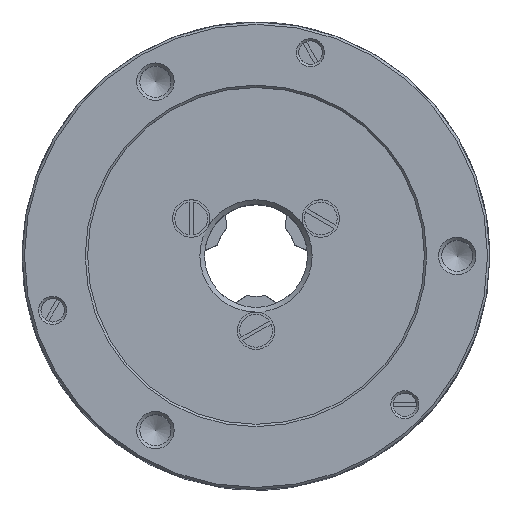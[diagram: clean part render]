
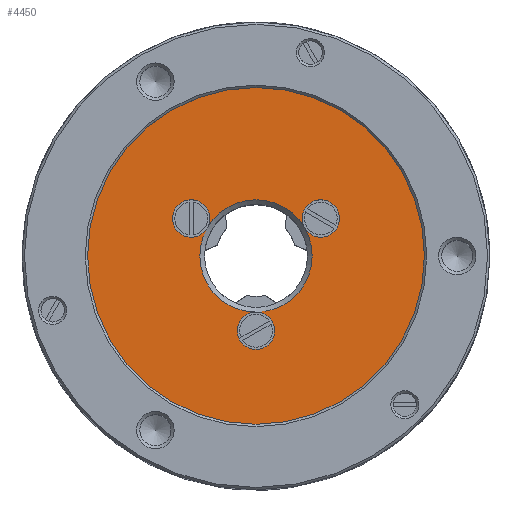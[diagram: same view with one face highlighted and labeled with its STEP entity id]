
A CAD part, top view. The second image highlights one B-rep face of the part: STEP entity #4450.
In plain terms, the highlighted planar face has unit normal (0, 0, 1).
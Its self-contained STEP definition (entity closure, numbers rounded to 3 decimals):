
#192=FACE_BOUND('',#691,.T.);
#214=PLANE('',#4831);
#418=FACE_OUTER_BOUND('',#690,.T.);
#690=EDGE_LOOP('',(#3148));
#691=EDGE_LOOP('',(#3149,#3150,#3151,#3152,#3153,#3154,#3155,#3156,#3157,
#3158));
#967=CIRCLE('',#4777,36.);
#994=CIRCLE('',#4813,4.);
#995=CIRCLE('',#4814,4.);
#1001=CIRCLE('',#4828,4.);
#1002=CIRCLE('',#4829,4.);
#1003=CIRCLE('',#4832,12.);
#1004=CIRCLE('',#4833,4.);
#1005=CIRCLE('',#4834,4.);
#1006=CIRCLE('',#4835,12.);
#1007=CIRCLE('',#4836,12.);
#1008=CIRCLE('',#4837,12.);
#1869=VERTEX_POINT('',#6672);
#1924=VERTEX_POINT('',#6927);
#1925=VERTEX_POINT('',#6928);
#1935=VERTEX_POINT('',#6962);
#1936=VERTEX_POINT('',#6963);
#1937=VERTEX_POINT('',#6969);
#1938=VERTEX_POINT('',#6970);
#1939=VERTEX_POINT('',#6972);
#2334=EDGE_CURVE('',#1869,#1869,#967,.T.);
#2396=EDGE_CURVE('',#1924,#1925,#994,.T.);
#2397=EDGE_CURVE('',#1925,#1924,#995,.T.);
#2412=EDGE_CURVE('',#1935,#1936,#1001,.T.);
#2413=EDGE_CURVE('',#1936,#1935,#1002,.T.);
#2415=EDGE_CURVE('',#1937,#1938,#1003,.T.);
#2416=EDGE_CURVE('',#1937,#1939,#1004,.T.);
#2417=EDGE_CURVE('',#1939,#1937,#1005,.T.);
#2418=EDGE_CURVE('',#1935,#1937,#1006,.T.);
#2419=EDGE_CURVE('',#1924,#1935,#1007,.T.);
#2420=EDGE_CURVE('',#1938,#1924,#1008,.T.);
#3148=ORIENTED_EDGE('',*,*,#2334,.F.);
#3149=ORIENTED_EDGE('',*,*,#2415,.F.);
#3150=ORIENTED_EDGE('',*,*,#2416,.T.);
#3151=ORIENTED_EDGE('',*,*,#2417,.T.);
#3152=ORIENTED_EDGE('',*,*,#2418,.F.);
#3153=ORIENTED_EDGE('',*,*,#2412,.T.);
#3154=ORIENTED_EDGE('',*,*,#2413,.T.);
#3155=ORIENTED_EDGE('',*,*,#2419,.F.);
#3156=ORIENTED_EDGE('',*,*,#2396,.T.);
#3157=ORIENTED_EDGE('',*,*,#2397,.T.);
#3158=ORIENTED_EDGE('',*,*,#2420,.F.);
#4450=ADVANCED_FACE('',(#418,#192),#214,.T.);
#4777=AXIS2_PLACEMENT_3D('',#6673,#5332,#5333);
#4813=AXIS2_PLACEMENT_3D('',#6929,#5433,#5434);
#4814=AXIS2_PLACEMENT_3D('',#6930,#5435,#5436);
#4828=AXIS2_PLACEMENT_3D('',#6964,#5472,#5473);
#4829=AXIS2_PLACEMENT_3D('',#6965,#5474,#5475);
#4831=AXIS2_PLACEMENT_3D('',#6968,#5479,#5480);
#4832=AXIS2_PLACEMENT_3D('',#6971,#5481,#5482);
#4833=AXIS2_PLACEMENT_3D('',#6973,#5483,#5484);
#4834=AXIS2_PLACEMENT_3D('',#6974,#5485,#5486);
#4835=AXIS2_PLACEMENT_3D('',#6975,#5487,#5488);
#4836=AXIS2_PLACEMENT_3D('',#6976,#5489,#5490);
#4837=AXIS2_PLACEMENT_3D('',#6977,#5491,#5492);
#5332=DIRECTION('center_axis',(0.,0.,-1.));
#5333=DIRECTION('ref_axis',(1.,0.,0.));
#5433=DIRECTION('center_axis',(0.,0.,-1.));
#5434=DIRECTION('ref_axis',(-0.5,0.866,0.));
#5435=DIRECTION('center_axis',(0.,0.,-1.));
#5436=DIRECTION('ref_axis',(-0.5,0.866,0.));
#5472=DIRECTION('center_axis',(0.,0.,-1.));
#5473=DIRECTION('ref_axis',(-0.5,-0.866,0.));
#5474=DIRECTION('center_axis',(0.,0.,-1.));
#5475=DIRECTION('ref_axis',(-0.5,-0.866,0.));
#5479=DIRECTION('center_axis',(0.,0.,1.));
#5480=DIRECTION('ref_axis',(1.,0.,0.));
#5481=DIRECTION('center_axis',(0.,0.,1.));
#5482=DIRECTION('ref_axis',(1.,0.,0.));
#5483=DIRECTION('center_axis',(0.,0.,-1.));
#5484=DIRECTION('ref_axis',(1.,0.,0.));
#5485=DIRECTION('center_axis',(0.,0.,-1.));
#5486=DIRECTION('ref_axis',(1.,0.,0.));
#5487=DIRECTION('center_axis',(0.,0.,1.));
#5488=DIRECTION('ref_axis',(1.,0.,0.));
#5489=DIRECTION('center_axis',(0.,0.,1.));
#5490=DIRECTION('ref_axis',(1.,0.,0.));
#5491=DIRECTION('center_axis',(0.,0.,1.));
#5492=DIRECTION('ref_axis',(1.,0.,0.));
#6672=CARTESIAN_POINT('',(36.,0.,24.5));
#6673=CARTESIAN_POINT('Origin',(0.,0.,24.5));
#6927=CARTESIAN_POINT('',(0.,-12.,24.5));
#6928=CARTESIAN_POINT('',(2.,-19.464,24.5));
#6929=CARTESIAN_POINT('Origin',(0.,-16.,24.5));
#6930=CARTESIAN_POINT('Origin',(0.,-16.,24.5));
#6962=CARTESIAN_POINT('',(10.392,6.,24.5));
#6963=CARTESIAN_POINT('',(15.856,11.464,24.5));
#6964=CARTESIAN_POINT('Origin',(13.856,8.,24.5));
#6965=CARTESIAN_POINT('Origin',(13.856,8.,24.5));
#6968=CARTESIAN_POINT('Origin',(-36.,0.,24.5));
#6969=CARTESIAN_POINT('',(-10.392,6.,24.5));
#6970=CARTESIAN_POINT('',(-12.,0.,24.5));
#6971=CARTESIAN_POINT('Origin',(0.,0.,24.5));
#6972=CARTESIAN_POINT('',(-17.856,8.,24.5));
#6973=CARTESIAN_POINT('Origin',(-13.856,8.,24.5));
#6974=CARTESIAN_POINT('Origin',(-13.856,8.,24.5));
#6975=CARTESIAN_POINT('Origin',(0.,0.,24.5));
#6976=CARTESIAN_POINT('Origin',(0.,0.,24.5));
#6977=CARTESIAN_POINT('Origin',(0.,0.,24.5));
